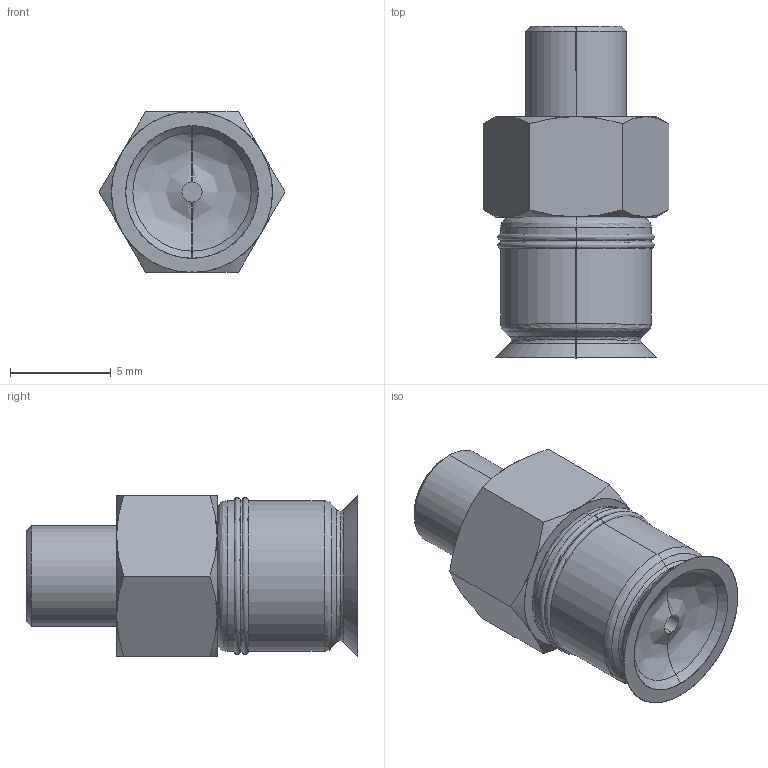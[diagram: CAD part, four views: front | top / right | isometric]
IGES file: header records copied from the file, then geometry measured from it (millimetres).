
Start section: SolidWorks IGES file using analytic representation for surfaces
Global section: file name: E:\eins\20070625石神\シュマルツ\SQNシリーズ\183829.IGS; native system: SolidWorks 2006 by SolidWorks Corporation; preprocessor: SolidWorks 2006 by SolidWorks Corporation; author: CAD54; date: 070625.163936; units: millimetre
Bounding box: 9.24 x 16.5 x 8 mm (x, y, z)
Surface area: 534.5 mm2 (no closed solid volume)
Topology: 0 solids, 0 shells, 55 faces, 496 edges, 496 vertices
Faces by surface type: revolution 30, bspline 25
